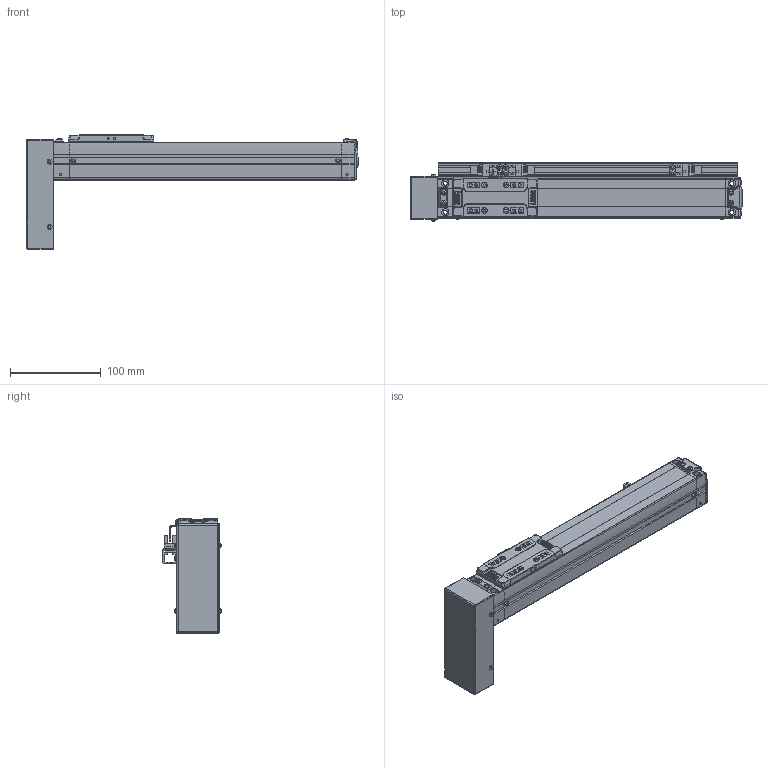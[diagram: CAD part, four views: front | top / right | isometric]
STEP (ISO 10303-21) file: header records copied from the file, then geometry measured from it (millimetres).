
FILE_DESCRIPTION(('STEP AP214'),'1');
FILE_NAME('Z:/Web/3D/SAN45/2013.ver/STP/SAN45-200PB+3SL.stp','2013-05-15T00:33:45',(' '),(' '),'Spatial InterOp 3D',' ',' ');
FILE_SCHEMA(('automotive_design'));
Length unit declared in the file: millimetre
Products named in the file (46): BODY-SAN45; REAR-SAN45; RRCV-SAN45; BHCS M3 x 6L; BHCS M3 X 6L; FRONT-SAN45; SHAFT; RN8 x 0.75; SSFX-SAN45; SLIDE-SAN45; SLCV-IM45; FHCS M3 x 6L; BTCV-SAN45; SRL-16x17-380L; EE-SX674; SBK-SX674-352; SDG-SA45; SCREW M3 x 5L
Bounding box: 366.15 x 64.06 x 126 mm (x, y, z)
Volume: 817576.7 mm3; surface area: 178522.3 mm2
Topology: 46 solids, 46 shells, 2323 faces, 5999 edges, 3854 vertices
Faces by surface type: plane 1288, cylinder 725, cone 144, sphere 84, bspline 44, torus 32, extrusion 6
Entity records: 94115 total; most frequent: CARTESIAN_POINT 16796, DIRECTION 12488, ORIENTED_EDGE 11862, EDGE_CURVE 5931, AXIS2_PLACEMENT_3D 4359, VERTEX_POINT 3854, VECTOR 3770, LINE 3764
